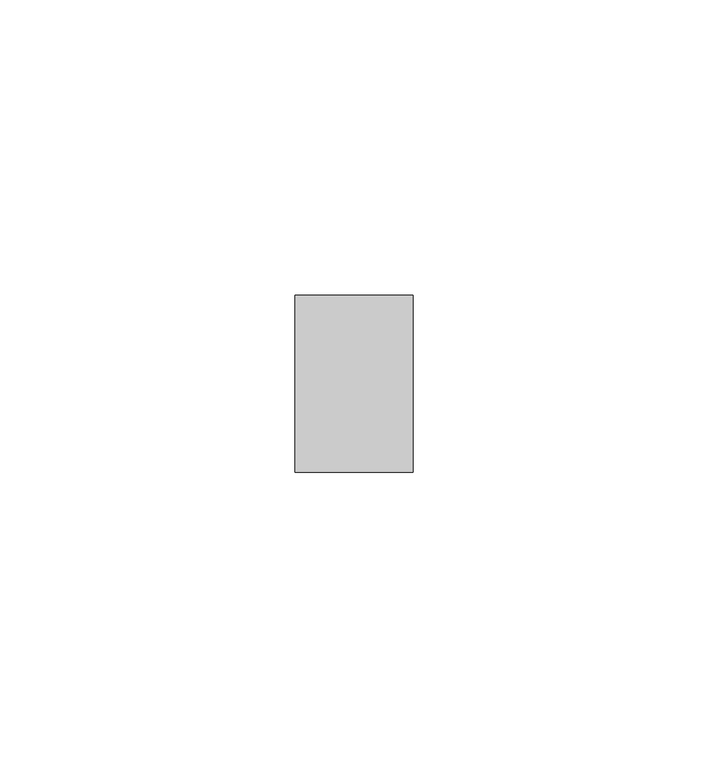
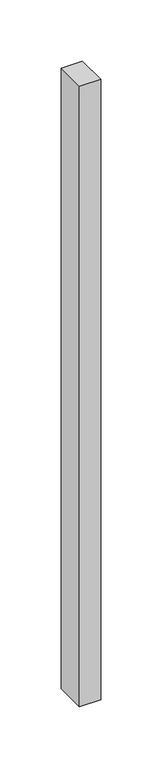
"""IFC4 building model written with IfcOpenShell, lengths in millimetres: member geometry, Прямоугольный импост : Квадрат 10 мм - Зазор между навесными плитами."""

from ifc_helpers import new_model, si_unit, frame, origin, place, context, project, spatial, polyline, outline, extrude, source, transform, mapped, element, save


def member_fa9a9306(model_context):
    return source(origin(), model_context, "Body", "SweptSolid", [
        extrude(outline(polyline([(0.0, 15.0), (0.0, -15.0), (-20.0, -15.0), (-20.0, 15.0), (0.0, 15.0)])), frame((0.0, 0.0, -619.5), z_axis=(0.0, 0.0, 1.0), x_axis=(1.0, 0.0, 0.0)), (0.0, 0.0, 1.0), 619.5),
    ])


if __name__ == "__main__":
    model = new_model("IFC4")
    model_context = context("Model", 3, world=origin())
    ifc_project = project(units=[si_unit("LENGTHUNIT", "METRE", prefix="MILLI")], contexts=[model_context])
    site = spatial("IfcSite", under=ifc_project)
    building = spatial("IfcBuilding", under=site)
    placement = place(None, origin())
    member_shape = member_fa9a9306(model_context)
    element("IfcMember", 1, ObjectType="Прямоугольный импост : Квадрат 10 мм - Зазор между навесными плитами", at=placement, inside=building, context=model_context, shape_type="MappedRepresentation", body=[
        mapped(member_shape, transform((0.0, 0.0, 0.0), x_axis=(1.0, 0.0, 0.0), y_axis=(0.0, 1.0, 0.0), z_axis=(0.0, 0.0, 1.0))),
    ])
    save(model, "model.ifc")
